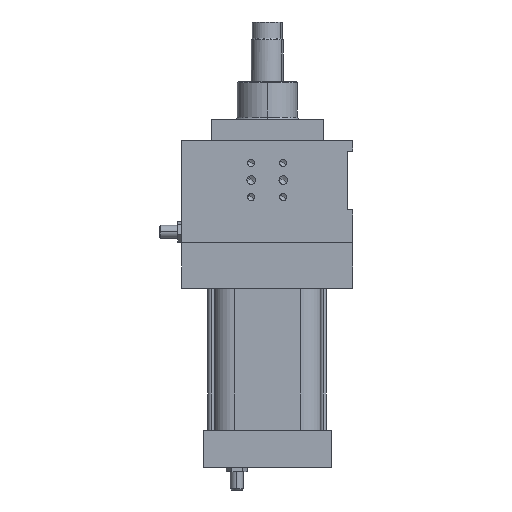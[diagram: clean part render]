
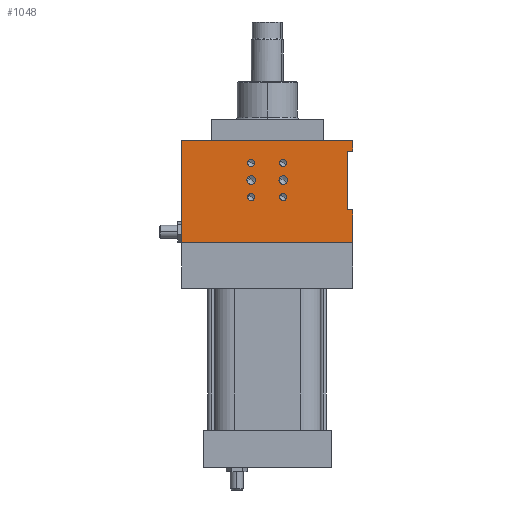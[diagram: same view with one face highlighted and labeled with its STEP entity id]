
A CAD part, left-side view. The second image highlights one B-rep face of the part: STEP entity #1048.
In plain terms, the highlighted planar face has unit normal (-1, 0, 0).
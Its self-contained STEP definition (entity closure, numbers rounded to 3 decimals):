
#710=CARTESIAN_POINT('Vertex',(-30.,-80.,-95.5)) ;
#715=CARTESIAN_POINT('Line Origine',(-30.,0.,-95.5)) ;
#719=CARTESIAN_POINT('Vertex',(-30.,80.,-95.5)) ;
#837=CARTESIAN_POINT('Vertex',(-30.,-80.,-65.)) ;
#842=CARTESIAN_POINT('Line Origine',(-30.,-80.,-80.25)) ;
#877=CARTESIAN_POINT('Axis2P3D Location',(-30.,0.,0.)) ;
#882=CARTESIAN_POINT('Line Origine',(-30.,26.25,0.)) ;
#886=CARTESIAN_POINT('Vertex',(-30.,80.,0.)) ;
#888=CARTESIAN_POINT('Vertex',(-30.,-27.5,0.)) ;
#891=CARTESIAN_POINT('Line Origine',(-30.,80.,-47.75)) ;
#896=CARTESIAN_POINT('Line Origine',(-30.,-77.5,-65.)) ;
#900=CARTESIAN_POINT('Vertex',(-30.,-75.,-65.)) ;
#903=CARTESIAN_POINT('Line Origine',(-30.,-75.,-37.5)) ;
#907=CARTESIAN_POINT('Vertex',(-30.,-75.,-10.)) ;
#910=CARTESIAN_POINT('Line Origine',(-30.,-77.5,-10.)) ;
#914=CARTESIAN_POINT('Vertex',(-30.,-80.,-10.)) ;
#917=CARTESIAN_POINT('Line Origine',(-30.,-80.,-5.)) ;
#921=CARTESIAN_POINT('Vertex',(-30.,-80.,0.)) ;
#924=CARTESIAN_POINT('Line Origine',(-30.,-53.75,0.)) ;
#940=CARTESIAN_POINT('Axis2P3D Location',(-30.,-15.,-37.)) ;
#944=CARTESIAN_POINT('Vertex',(-30.,-11.49,-35.082)) ;
#946=CARTESIAN_POINT('Vertex',(-30.,-18.51,-38.918)) ;
#949=CARTESIAN_POINT('Axis2P3D Location',(-30.,-15.,-37.)) ;
#958=CARTESIAN_POINT('Axis2P3D Location',(-30.,15.,-37.)) ;
#962=CARTESIAN_POINT('Vertex',(-30.,11.49,-38.918)) ;
#964=CARTESIAN_POINT('Vertex',(-30.,18.51,-35.082)) ;
#967=CARTESIAN_POINT('Axis2P3D Location',(-30.,15.,-37.)) ;
#976=CARTESIAN_POINT('Axis2P3D Location',(-30.,15.,-21.)) ;
#980=CARTESIAN_POINT('Vertex',(-30.,12.083,-22.593)) ;
#982=CARTESIAN_POINT('Vertex',(-30.,17.917,-19.407)) ;
#985=CARTESIAN_POINT('Axis2P3D Location',(-30.,15.,-21.)) ;
#994=CARTESIAN_POINT('Axis2P3D Location',(-30.,-15.,-21.)) ;
#998=CARTESIAN_POINT('Vertex',(-30.,-12.083,-19.407)) ;
#1000=CARTESIAN_POINT('Vertex',(-30.,-17.917,-22.593)) ;
#1003=CARTESIAN_POINT('Axis2P3D Location',(-30.,-15.,-21.)) ;
#1012=CARTESIAN_POINT('Axis2P3D Location',(-30.,15.,-53.)) ;
#1016=CARTESIAN_POINT('Vertex',(-30.,17.917,-51.407)) ;
#1018=CARTESIAN_POINT('Vertex',(-30.,12.083,-54.593)) ;
#1021=CARTESIAN_POINT('Axis2P3D Location',(-30.,15.,-53.)) ;
#1030=CARTESIAN_POINT('Axis2P3D Location',(-30.,-15.,-53.)) ;
#1034=CARTESIAN_POINT('Vertex',(-30.,-12.083,-51.407)) ;
#1036=CARTESIAN_POINT('Vertex',(-30.,-17.917,-54.593)) ;
#1039=CARTESIAN_POINT('Axis2P3D Location',(-30.,-15.,-53.)) ;
#716=DIRECTION('Vector Direction',(0.,1.,0.)) ;
#843=DIRECTION('Vector Direction',(0.,0.,-1.)) ;
#878=DIRECTION('Axis2P3D Direction',(1.,0.,0.)) ;
#879=DIRECTION('Axis2P3D XDirection',(0.,1.,0.)) ;
#883=DIRECTION('Vector Direction',(0.,-1.,0.)) ;
#892=DIRECTION('Vector Direction',(0.,0.,1.)) ;
#897=DIRECTION('Vector Direction',(0.,-1.,0.)) ;
#904=DIRECTION('Vector Direction',(0.,0.,-1.)) ;
#911=DIRECTION('Vector Direction',(0.,1.,0.)) ;
#918=DIRECTION('Vector Direction',(0.,0.,-1.)) ;
#925=DIRECTION('Vector Direction',(0.,-1.,0.)) ;
#941=DIRECTION('Axis2P3D Direction',(1.,0.,0.)) ;
#950=DIRECTION('Axis2P3D Direction',(1.,0.,0.)) ;
#959=DIRECTION('Axis2P3D Direction',(1.,0.,0.)) ;
#968=DIRECTION('Axis2P3D Direction',(1.,0.,0.)) ;
#977=DIRECTION('Axis2P3D Direction',(1.,0.,0.)) ;
#986=DIRECTION('Axis2P3D Direction',(1.,0.,0.)) ;
#995=DIRECTION('Axis2P3D Direction',(1.,0.,0.)) ;
#1004=DIRECTION('Axis2P3D Direction',(1.,0.,0.)) ;
#1013=DIRECTION('Axis2P3D Direction',(1.,0.,0.)) ;
#1022=DIRECTION('Axis2P3D Direction',(1.,0.,0.)) ;
#1031=DIRECTION('Axis2P3D Direction',(1.,0.,0.)) ;
#1040=DIRECTION('Axis2P3D Direction',(1.,0.,0.)) ;
#880=AXIS2_PLACEMENT_3D('Plane Axis2P3D',#877,#878,#879) ;
#942=AXIS2_PLACEMENT_3D('Circle Axis2P3D',#940,#941,$) ;
#951=AXIS2_PLACEMENT_3D('Circle Axis2P3D',#949,#950,$) ;
#960=AXIS2_PLACEMENT_3D('Circle Axis2P3D',#958,#959,$) ;
#969=AXIS2_PLACEMENT_3D('Circle Axis2P3D',#967,#968,$) ;
#978=AXIS2_PLACEMENT_3D('Circle Axis2P3D',#976,#977,$) ;
#987=AXIS2_PLACEMENT_3D('Circle Axis2P3D',#985,#986,$) ;
#996=AXIS2_PLACEMENT_3D('Circle Axis2P3D',#994,#995,$) ;
#1005=AXIS2_PLACEMENT_3D('Circle Axis2P3D',#1003,#1004,$) ;
#1014=AXIS2_PLACEMENT_3D('Circle Axis2P3D',#1012,#1013,$) ;
#1023=AXIS2_PLACEMENT_3D('Circle Axis2P3D',#1021,#1022,$) ;
#1032=AXIS2_PLACEMENT_3D('Circle Axis2P3D',#1030,#1031,$) ;
#1041=AXIS2_PLACEMENT_3D('Circle Axis2P3D',#1039,#1040,$) ;
#930=ORIENTED_EDGE('',*,*,#890,.F.) ;
#931=ORIENTED_EDGE('',*,*,#895,.F.) ;
#932=ORIENTED_EDGE('',*,*,#721,.F.) ;
#933=ORIENTED_EDGE('',*,*,#846,.F.) ;
#934=ORIENTED_EDGE('',*,*,#902,.F.) ;
#935=ORIENTED_EDGE('',*,*,#909,.F.) ;
#936=ORIENTED_EDGE('',*,*,#916,.F.) ;
#937=ORIENTED_EDGE('',*,*,#923,.F.) ;
#938=ORIENTED_EDGE('',*,*,#928,.F.) ;
#955=ORIENTED_EDGE('',*,*,#948,.T.) ;
#956=ORIENTED_EDGE('',*,*,#953,.T.) ;
#973=ORIENTED_EDGE('',*,*,#966,.T.) ;
#974=ORIENTED_EDGE('',*,*,#971,.T.) ;
#991=ORIENTED_EDGE('',*,*,#984,.T.) ;
#992=ORIENTED_EDGE('',*,*,#989,.T.) ;
#1009=ORIENTED_EDGE('',*,*,#1002,.T.) ;
#1010=ORIENTED_EDGE('',*,*,#1007,.T.) ;
#1027=ORIENTED_EDGE('',*,*,#1020,.T.) ;
#1028=ORIENTED_EDGE('',*,*,#1025,.T.) ;
#1045=ORIENTED_EDGE('',*,*,#1038,.T.) ;
#1046=ORIENTED_EDGE('',*,*,#1043,.T.) ;
#957=FACE_BOUND('',#954,.T.) ;
#975=FACE_BOUND('',#972,.T.) ;
#993=FACE_BOUND('',#990,.T.) ;
#1011=FACE_BOUND('',#1008,.T.) ;
#1029=FACE_BOUND('',#1026,.T.) ;
#1047=FACE_BOUND('',#1044,.T.) ;
#717=VECTOR('Line Direction',#716,1.) ;
#844=VECTOR('Line Direction',#843,1.) ;
#884=VECTOR('Line Direction',#883,1.) ;
#893=VECTOR('Line Direction',#892,1.) ;
#898=VECTOR('Line Direction',#897,1.) ;
#905=VECTOR('Line Direction',#904,1.) ;
#912=VECTOR('Line Direction',#911,1.) ;
#919=VECTOR('Line Direction',#918,1.) ;
#926=VECTOR('Line Direction',#925,1.) ;
#1048=ADVANCED_FACE('MZ_F_63_V_50_G_T02_TUENKERS',(#939,#957,#975,#993,#1011,#1029,#1047),#881,.F.) ;
#943=CIRCLE('generated circle',#942,4.) ;
#952=CIRCLE('generated circle',#951,4.) ;
#961=CIRCLE('generated circle',#960,4.) ;
#970=CIRCLE('generated circle',#969,4.) ;
#979=CIRCLE('generated circle',#978,3.324) ;
#988=CIRCLE('generated circle',#987,3.324) ;
#997=CIRCLE('generated circle',#996,3.324) ;
#1006=CIRCLE('generated circle',#1005,3.324) ;
#1015=CIRCLE('generated circle',#1014,3.324) ;
#1024=CIRCLE('generated circle',#1023,3.324) ;
#1033=CIRCLE('generated circle',#1032,3.324) ;
#1042=CIRCLE('generated circle',#1041,3.324) ;
#721=EDGE_CURVE('',#711,#720,#718,.T.) ;
#846=EDGE_CURVE('',#838,#711,#845,.T.) ;
#890=EDGE_CURVE('',#887,#889,#885,.T.) ;
#895=EDGE_CURVE('',#720,#887,#894,.T.) ;
#902=EDGE_CURVE('',#901,#838,#899,.T.) ;
#909=EDGE_CURVE('',#908,#901,#906,.T.) ;
#916=EDGE_CURVE('',#915,#908,#913,.T.) ;
#923=EDGE_CURVE('',#922,#915,#920,.T.) ;
#928=EDGE_CURVE('',#889,#922,#927,.T.) ;
#948=EDGE_CURVE('',#945,#947,#943,.T.) ;
#953=EDGE_CURVE('',#947,#945,#952,.T.) ;
#966=EDGE_CURVE('',#963,#965,#961,.T.) ;
#971=EDGE_CURVE('',#965,#963,#970,.T.) ;
#984=EDGE_CURVE('',#981,#983,#979,.T.) ;
#989=EDGE_CURVE('',#983,#981,#988,.T.) ;
#1002=EDGE_CURVE('',#999,#1001,#997,.T.) ;
#1007=EDGE_CURVE('',#1001,#999,#1006,.T.) ;
#1020=EDGE_CURVE('',#1017,#1019,#1015,.T.) ;
#1025=EDGE_CURVE('',#1019,#1017,#1024,.T.) ;
#1038=EDGE_CURVE('',#1035,#1037,#1033,.T.) ;
#1043=EDGE_CURVE('',#1037,#1035,#1042,.T.) ;
#929=EDGE_LOOP('',(#930,#931,#932,#933,#934,#935,#936,#937,#938)) ;
#954=EDGE_LOOP('',(#955,#956)) ;
#972=EDGE_LOOP('',(#973,#974)) ;
#990=EDGE_LOOP('',(#991,#992)) ;
#1008=EDGE_LOOP('',(#1009,#1010)) ;
#1026=EDGE_LOOP('',(#1027,#1028)) ;
#1044=EDGE_LOOP('',(#1045,#1046)) ;
#939=FACE_OUTER_BOUND('',#929,.T.) ;
#718=LINE('Line',#715,#717) ;
#845=LINE('Line',#842,#844) ;
#885=LINE('Line',#882,#884) ;
#894=LINE('Line',#891,#893) ;
#899=LINE('Line',#896,#898) ;
#906=LINE('Line',#903,#905) ;
#913=LINE('Line',#910,#912) ;
#920=LINE('Line',#917,#919) ;
#927=LINE('Line',#924,#926) ;
#881=PLANE('Plane',#880) ;
#711=VERTEX_POINT('',#710) ;
#720=VERTEX_POINT('',#719) ;
#838=VERTEX_POINT('',#837) ;
#887=VERTEX_POINT('',#886) ;
#889=VERTEX_POINT('',#888) ;
#901=VERTEX_POINT('',#900) ;
#908=VERTEX_POINT('',#907) ;
#915=VERTEX_POINT('',#914) ;
#922=VERTEX_POINT('',#921) ;
#945=VERTEX_POINT('',#944) ;
#947=VERTEX_POINT('',#946) ;
#963=VERTEX_POINT('',#962) ;
#965=VERTEX_POINT('',#964) ;
#981=VERTEX_POINT('',#980) ;
#983=VERTEX_POINT('',#982) ;
#999=VERTEX_POINT('',#998) ;
#1001=VERTEX_POINT('',#1000) ;
#1017=VERTEX_POINT('',#1016) ;
#1019=VERTEX_POINT('',#1018) ;
#1035=VERTEX_POINT('',#1034) ;
#1037=VERTEX_POINT('',#1036) ;
